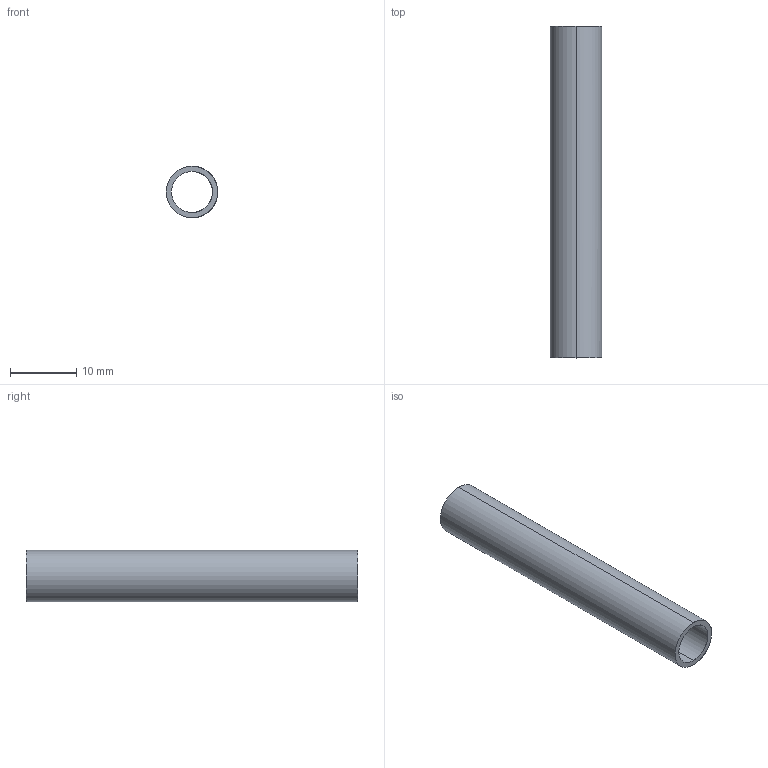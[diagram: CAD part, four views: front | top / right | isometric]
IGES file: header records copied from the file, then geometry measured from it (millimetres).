
Global section: file name: 0393-18-84; native system: VariCAD 2020-1.02; preprocessor: 5.3; author: LVVS3874K00E; organization: Elphe, Inc.; date: 20260812.110532; units: millimetre
Bounding box: 7.8 x 50 x 7.8 mm (x, y, z)
Surface area: 2234.3 mm2 (no closed solid volume)
Topology: 0 solids, 0 shells, 6 faces, 24 edges, 24 vertices
Faces by surface type: revolution 4, bspline 2
